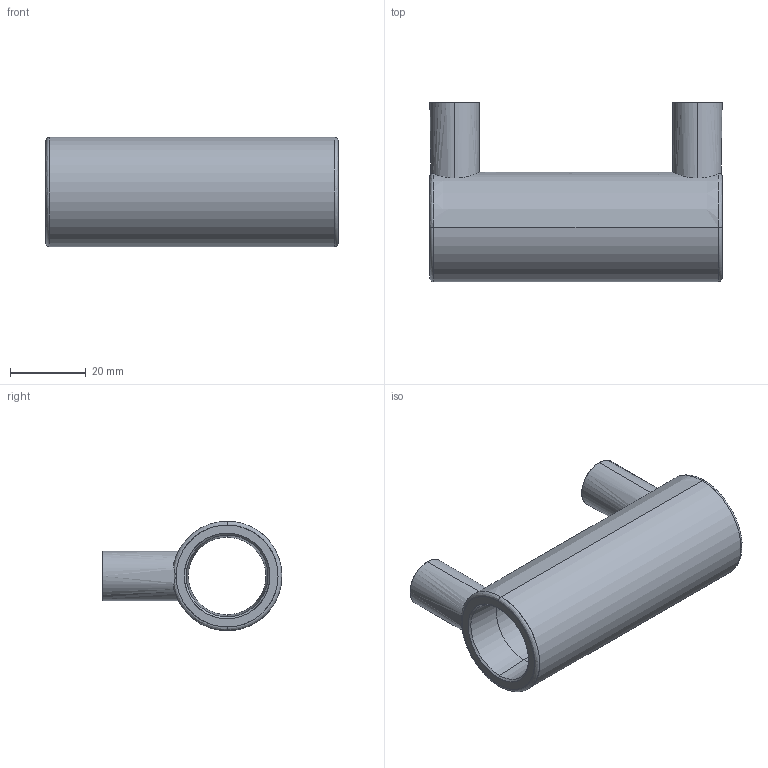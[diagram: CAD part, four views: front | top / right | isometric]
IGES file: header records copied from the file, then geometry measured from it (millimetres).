
Start section: SolidWorks IGES file using analytic representation for surfaces
Global section: file name: G:\Group\Marketing\Public\CAD Offering - Website\1. coupler\CBKHA20.IGS; native system: SolidWorks 2017; preprocessor: SolidWorks 2017; author: hwegrzynska; date: 180919.135521; units: millimetre
Bounding box: 77 x 47.35 x 28.85 mm (x, y, z)
Surface area: 15551 mm2 (no closed solid volume)
Topology: 0 solids, 0 shells, 64 faces, 962 edges, 962 vertices
Faces by surface type: revolution 40, bspline 24
